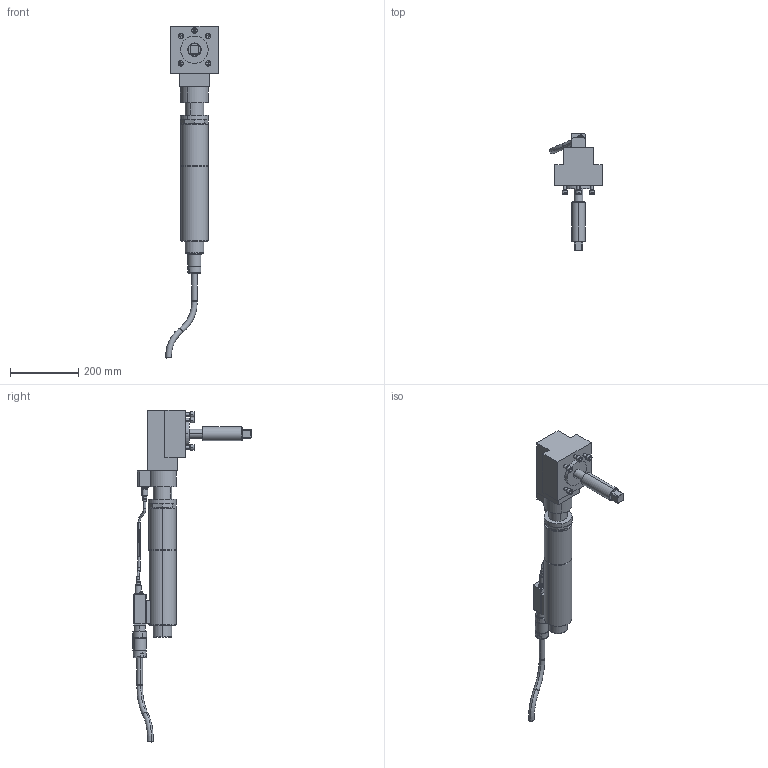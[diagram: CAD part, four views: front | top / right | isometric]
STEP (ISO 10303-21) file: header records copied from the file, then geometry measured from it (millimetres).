
FILE_DESCRIPTION(('CATIA V5 STEP'),'2;1');
FILE_NAME('O:\3D-Schrauber\stp\7920686_ECR326_DWR300_AW3350_AllCATPart.stp','2010-05-05T11:17:27+00:00',('none'),('none'),'CATIA Version 5 Release 19 SP 3 (IN-10)','CATIA V5 STEP AP214','none');
FILE_SCHEMA(('AUTOMOTIVE_DESIGN { 1 0 10303 214 1 1 1 1 }'));
Length unit declared in the file: millimetre
Products named in the file (1): 7920686_ECR326_DWR300_AW3350_AllCATPart
Bounding box: 153.32 x 345.98 x 971.66 mm (x, y, z)
Volume: 5119853.2 mm3; surface area: 389612.7 mm2
Topology: 19 solids, 19 shells, 462 faces, 1015 edges, 642 vertices
Faces by surface type: plane 193, cylinder 163, cone 62, torus 44
Entity records: 12165 total; most frequent: CARTESIAN_POINT 2454, ORIENTED_EDGE 2030, DIRECTION 1663, EDGE_CURVE 1015, AXIS2_PLACEMENT_3D 849, VERTEX_POINT 642, EDGE_LOOP 513, CIRCLE 496
